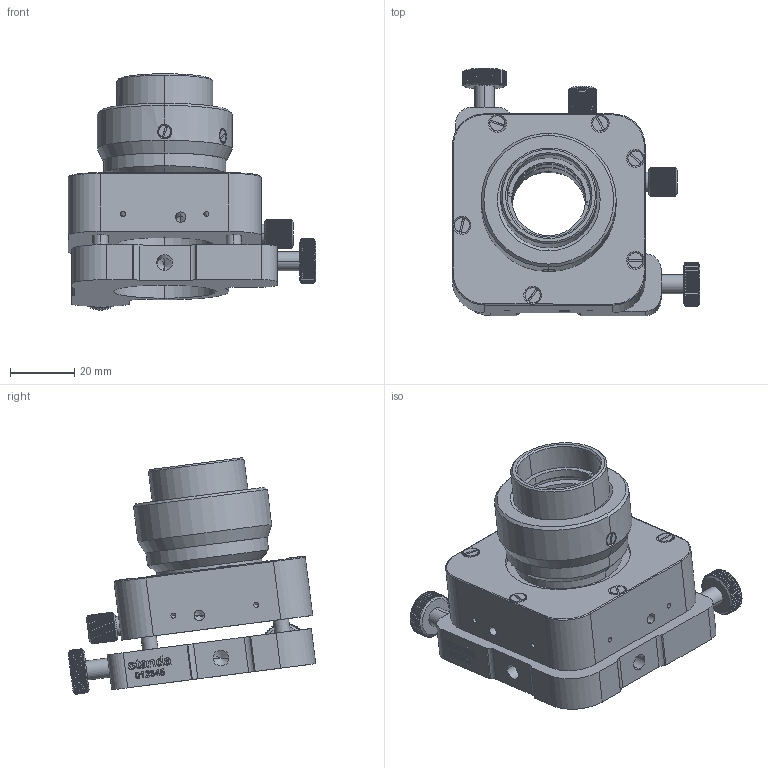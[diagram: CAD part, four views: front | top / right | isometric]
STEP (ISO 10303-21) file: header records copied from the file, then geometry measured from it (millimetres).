
FILE_DESCRIPTION (( 'STEP AP203' ), '1' );
FILE_NAME ('5KOM5-1.STEP', '2011-02-11T08:04:16', ( 'Darius' ), ( '' ), 'SwSTEP 2.0', 'SolidWorks 2003240', '' );
FILE_SCHEMA (( 'CONFIG_CONTROL_DESIGN' ));
Length unit declared in the file: millimetre
Products named in the file (1): 5KOM5-1
Bounding box: 77 x 77.05 x 73.63 mm (x, y, z)
Volume: 92772.9 mm3; surface area: 33964.7 mm2
Topology: 1 solids, 2 shells, 1607 faces, 4506 edges, 2965 vertices
Faces by surface type: plane 675, cylinder 578, bspline 262, cone 92
Entity records: 62682 total; most frequent: CARTESIAN_POINT 25503, ORIENTED_EDGE 8980, DIRECTION 5757, EDGE_CURVE 4490, VERTEX_POINT 2965, B_SPLINE_CURVE_WITH_KNOTS 2014, AXIS2_PLACEMENT_3D 1939, VECTOR 1879
